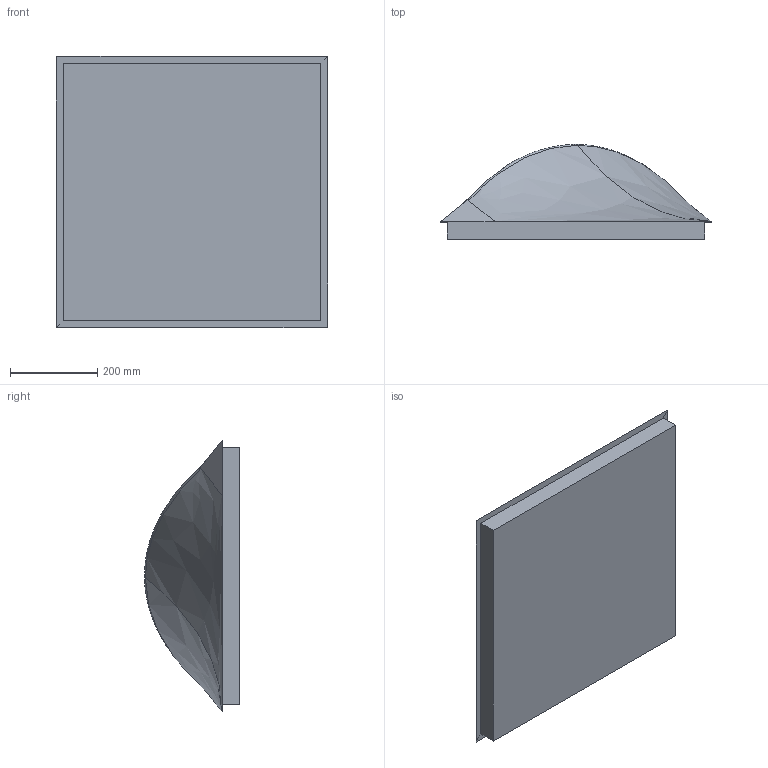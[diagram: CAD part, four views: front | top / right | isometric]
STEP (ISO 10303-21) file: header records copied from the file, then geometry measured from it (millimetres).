
FILE_DESCRIPTION (( 'STEP AP214' ), '1' );
FILE_NAME ('3D_SAORI_62.STEP', '2018-03-22T13:41:16', ( 'Utente' ), ( '' ), 'SwSTEP 2.0', 'SolidWorks 2016', '' );
FILE_SCHEMA (( 'AUTOMOTIVE_DESIGN' ));
Length unit declared in the file: millimetre
Products named in the file (3): 3D_SAORI; Parte1; 3D_SAORI_62
Assembly tree (2 placements, depth 2):
  3D_SAORI_62
    Parte1
    3D_SAORI
Bounding box: 620 x 217.31 x 620 mm (x, y, z)
Volume: 34933452.2 mm3; surface area: 1630314.8 mm2
Topology: 2 solids, 2 shells, 17 faces, 39 edges, 26 vertices
Faces by surface type: plane 11, bspline 6
Entity records: 1138 total; most frequent: CARTESIAN_POINT 692, ORIENTED_EDGE 78, DIRECTION 56, EDGE_CURVE 39, VERTEX_POINT 26, LINE 24, VECTOR 24, EDGE_LOOP 17
